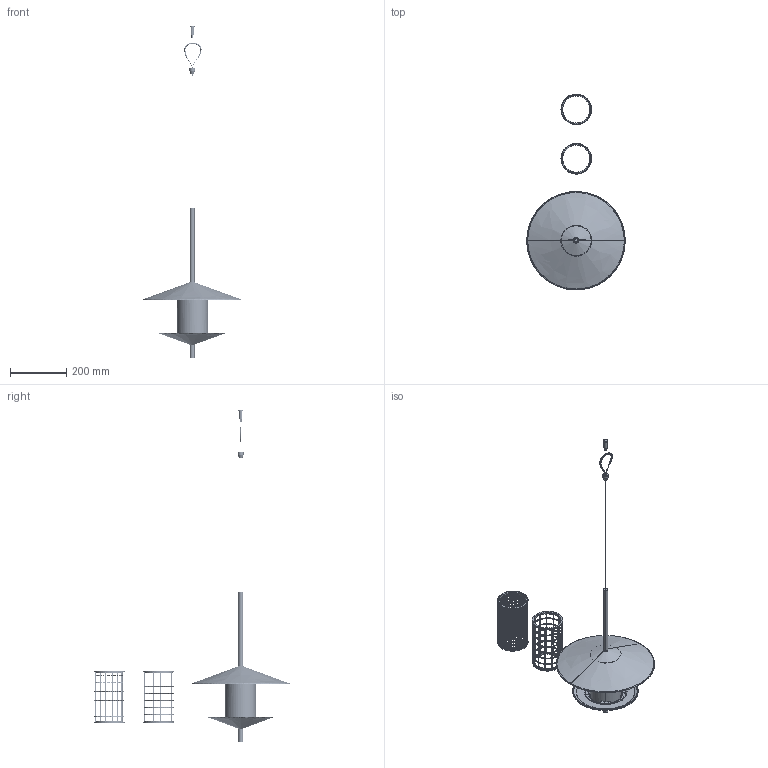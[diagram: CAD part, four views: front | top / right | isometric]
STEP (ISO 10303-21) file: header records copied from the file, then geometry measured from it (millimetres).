
FILE_DESCRIPTION(/* description */ (''),/* implementation_level */ '2;1');
FILE_NAME(/* name */ 'Ori_Suspension_Bird feeder',/* time_stamp */ '2026-10-06T09:50:46+02:00',/* author */ (''),/* organization */ (''),/* preprocessor_version */ 'ST-DEVELOPER v16.5',/* originating_system */ 'Rhino 7.38',/* authorisation */ '');
FILE_SCHEMA (('CONFIG_CONTROL_DESIGN'));
Length unit declared in the file: millimetre
Products named in the file (10): Document; Y104001596_--SPECIFICA FUNE ACC.D.1_5L_6Mt; WAP9922_--ORI - SMALL NET _ ANELLI_MODEL; Y102020243_--ORI - SMALL NET; Y104006043_--ORI - ANELLO RETE; WAP9932_--ORI - BIG NET _ ANELLI_MODEL; Y102020242_--ORI - BIG NET; WDC6750_--ORO - LOGO FOTOINCISO_MODEL; WDC6749_--ORI - FORATURA BASE STRAINER_MODEL; Y401001370_--ORI - DISTRIBUTORE TRASP.
Assembly tree (12 placements, depth 3):
  Document
    Y104001596_--SPECIFICA FUNE ACC.D.1_5L_6Mt
    WAP9922_--ORI - SMALL NET _ ANELLI_MODEL
      Y102020243_--ORI - SMALL NET
      Y104006043_--ORI - ANELLO RETE  x2
    WAP9932_--ORI - BIG NET _ ANELLI_MODEL
      Y102020242_--ORI - BIG NET
      Y104006043_--ORI - ANELLO RETE  x2
    WDC6750_--ORO - LOGO FOTOINCISO_MODEL
      WDC6749_--ORI - FORATURA BASE STRAINER_MODEL
    Y401001370_--ORI - DISTRIBUTORE TRASP.
Bounding box: 349.99 x 697.06 x 1182.66 mm (x, y, z)
Volume: 506126.8 mm3; surface area: 647295.3 mm2
Topology: 117 solids, 118 shells, 804 faces, 1903 edges, 1281 vertices
Faces by surface type: cylinder 416, plane 200, bspline 188
Entity records: 31517 total; most frequent: CARTESIAN_POINT 18478, ORIENTED_EDGE 3692, EDGE_CURVE 1847, VERTEX_POINT 1245, EDGE_LOOP 1009, ADVANCED_FACE 777, FACE_OUTER_BOUND 777, DIRECTION 649
